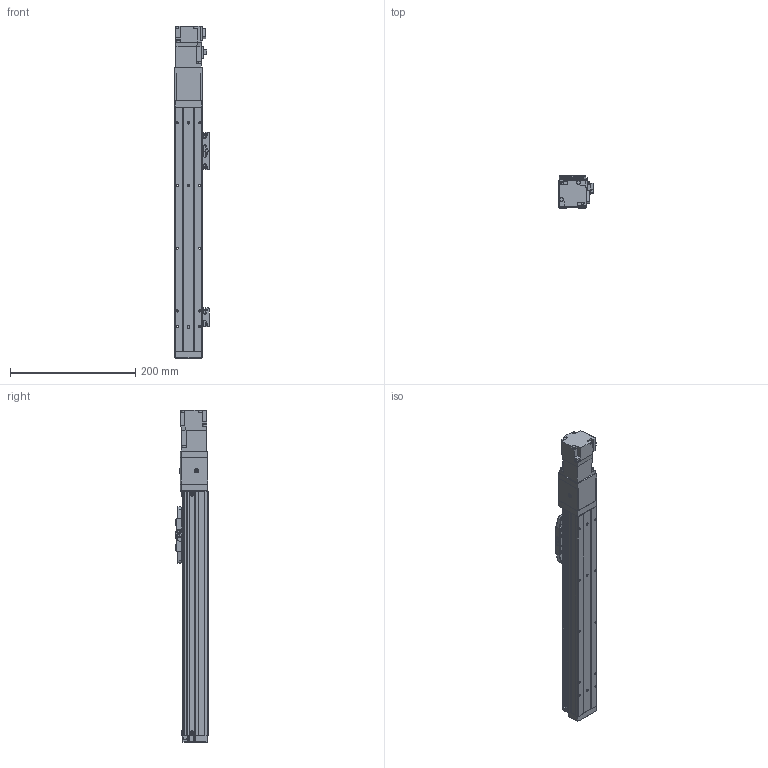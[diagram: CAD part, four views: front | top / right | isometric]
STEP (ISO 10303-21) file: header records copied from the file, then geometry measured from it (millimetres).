
FILE_DESCRIPTION (( 'STEP AP203' ), '1' );
FILE_NAME ('BTH40-250-BC-M05-C4.step', '2021-12-16T00:11:26', ( '微软用户' ), ( '微软中国' ), 'SwSTEP 2.0', 'SolidWorks 2020', '' );
FILE_SCHEMA (( 'CONFIG_CONTROL_DESIGN' ));
Length unit declared in the file: millimetre
Products named in the file (19): BTH40-001-50_BTH40-001-250; BTH50-024; HG-KR13; BTH40-003; GBT 70.1-M3℅6; GBT 70.3-M3℅6; BTH40-006; GBT96.1-2002 3×0.8; BTH40-017; BTH-M3X5X6; BTH40-022; BTH40-005-1; GBT70.1-2000 M3×16; GBT 70.1-M2.5×6; BTH40-250-BC-M05-C4; BTH50-028; BTH40-004; BTH50-023; BTH40-013
Assembly tree (49 placements, depth 2):
  BTH40-250-BC-M05-C4
    BTH40-001-50_BTH40-001-250
    BTH40-003
    BTH40-006
    BTH-M3X5X6  x10
    GBT70.1-2000 M3×16  x4
    BTH50-028  x2
    BTH50-023  x3
    BTH50-024  x3
    GBT 70.1-M3℅6  x6
    GBT96.1-2002 3×0.8  x6
    BTH40-022
    GBT 70.1-M2.5×6  x2
    BTH40-004
    BTH40-013
    HG-KR13
    GBT 70.3-M3℅6  x4
    BTH40-017
    BTH40-005-1
Bounding box: 55.2 x 52 x 529.4 mm (x, y, z)
Volume: 844530.8 mm3; surface area: 176440.8 mm2
Topology: 51 solids, 51 shells, 1954 faces, 4597 edges, 2844 vertices
Faces by surface type: plane 1088, cylinder 457, cone 257, torus 132, bspline 16, sphere 4
Entity records: 37539 total; most frequent: CARTESIAN_POINT 6790, DIRECTION 5888, ORIENTED_EDGE 5656, EDGE_CURVE 2828, LINE 2006, VECTOR 2006, AXIS2_PLACEMENT_3D 1941, VERTEX_POINT 1775
